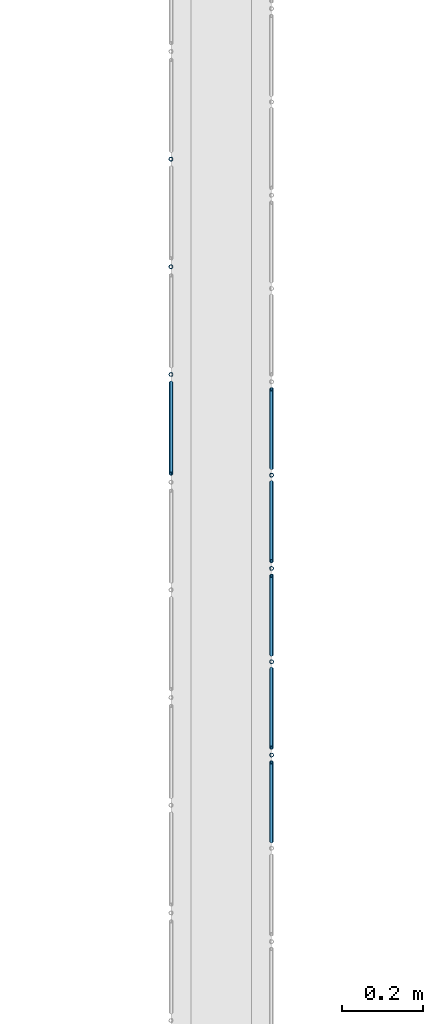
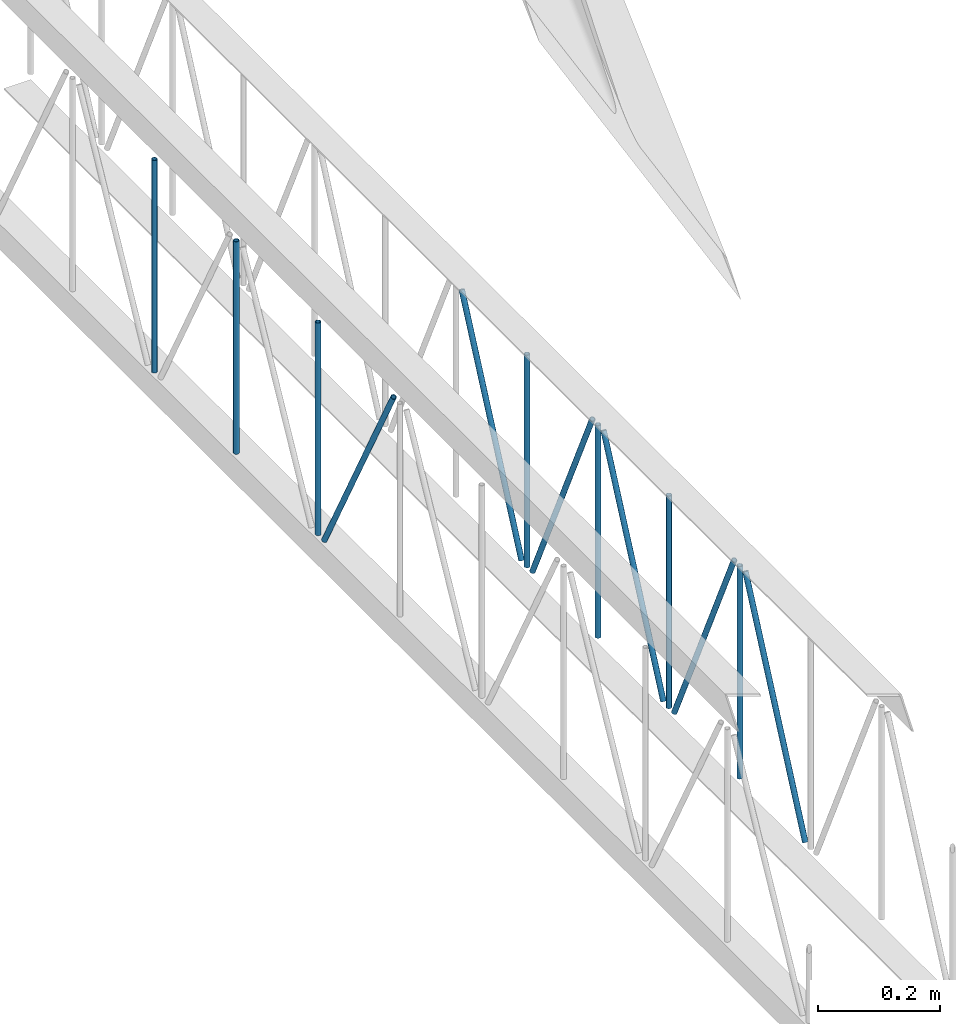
# One storey, part 69 of 153: 13 members, 2 elements without a shape of their own.
"""IFC4 building model written with IfcOpenShell, lengths in metres."""

from ifc_helpers import new_model, entity, si_unit, converted_unit, derived_unit, direction, frame, origin, place, context, subcontext, project, spatial, arc, indexed_curve, outline, extrude, source, transform, mapped, material, type_object, type_shapes, element, aggregate, save


model = new_model("IFC4")

# Units and contexts
model_context = context("Model", 3, precision=1e-05, world=origin(), true_north=direction((6.123031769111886e-17, 1.0)))
body_context = subcontext(model_context, "Body", "Model", "MODEL_VIEW")
ifc_project = project(units=[si_unit("LENGTHUNIT", "METRE"), si_unit("AREAUNIT", "SQUARE_METRE"), si_unit("VOLUMEUNIT", "CUBIC_METRE"), converted_unit("PLANEANGLEUNIT", "DEGREE", entity("IfcRatioMeasure", 0.017453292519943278), si_unit("PLANEANGLEUNIT", "RADIAN"), dimensions=[0, 0, 0, 0, 0, 0, 0]), si_unit("MASSUNIT", "GRAM", prefix="KILO"), derived_unit("MASSDENSITYUNIT", [(si_unit("MASSUNIT", "GRAM", prefix="KILO"), 1), (si_unit("LENGTHUNIT", "METRE"), -3)]), derived_unit("MOMENTOFINERTIAUNIT", [(si_unit("LENGTHUNIT", "METRE"), 4)]), si_unit("TIMEUNIT", "SECOND"), si_unit("FREQUENCYUNIT", "HERTZ"), si_unit("THERMODYNAMICTEMPERATUREUNIT", "DEGREE_CELSIUS"), derived_unit("THERMALTRANSMITTANCEUNIT", [(si_unit("MASSUNIT", "GRAM", prefix="KILO"), 1), (si_unit("THERMODYNAMICTEMPERATUREUNIT", "KELVIN"), -1), (si_unit("TIMEUNIT", "SECOND"), -3)]), derived_unit("VOLUMETRICFLOWRATEUNIT", [(si_unit("LENGTHUNIT", "METRE"), 3), (si_unit("TIMEUNIT", "SECOND"), -1)]), derived_unit("MASSFLOWRATEUNIT", [(si_unit("MASSUNIT", "GRAM", prefix="KILO"), 1), (si_unit("TIMEUNIT", "SECOND"), -1)]), derived_unit("ROTATIONALFREQUENCYUNIT", [(si_unit("TIMEUNIT", "SECOND"), -1)]), si_unit("ELECTRICCURRENTUNIT", "AMPERE"), si_unit("ELECTRICVOLTAGEUNIT", "VOLT"), si_unit("POWERUNIT", "WATT"), si_unit("FORCEUNIT", "NEWTON", prefix="KILO"), si_unit("ILLUMINANCEUNIT", "LUX"), si_unit("LUMINOUSFLUXUNIT", "LUMEN"), si_unit("LUMINOUSINTENSITYUNIT", "CANDELA"), derived_unit("USERDEFINED", [(si_unit("MASSUNIT", "GRAM", prefix="KILO"), -1), (si_unit("LENGTHUNIT", "METRE"), -2), (si_unit("TIMEUNIT", "SECOND"), 3), (si_unit("LUMINOUSFLUXUNIT", "LUMEN"), 1)]), derived_unit("SOUNDPOWERUNIT", [(si_unit("MASSUNIT", "GRAM", prefix="KILO"), 1), (si_unit("LENGTHUNIT", "METRE"), 2), (si_unit("TIMEUNIT", "SECOND"), -3)]), derived_unit("SOUNDPRESSUREUNIT", [(si_unit("MASSUNIT", "GRAM", prefix="KILO"), 1), (si_unit("LENGTHUNIT", "METRE"), -1), (si_unit("TIMEUNIT", "SECOND"), -2)]), derived_unit("LINEARVELOCITYUNIT", [(si_unit("LENGTHUNIT", "METRE"), 1), (si_unit("TIMEUNIT", "SECOND"), -1)]), si_unit("PRESSUREUNIT", "PASCAL"), derived_unit("USERDEFINED", [(si_unit("LENGTHUNIT", "METRE"), -2), (si_unit("MASSUNIT", "GRAM", prefix="KILO"), 1), (si_unit("TIMEUNIT", "SECOND"), -2)]), derived_unit("LINEARFORCEUNIT", [(si_unit("MASSUNIT", "GRAM", prefix="KILO"), 1), (si_unit("LENGTHUNIT", "METRE"), 1), (si_unit("TIMEUNIT", "SECOND"), -2), (si_unit("LENGTHUNIT", "METRE"), -1)]), derived_unit("PLANARFORCEUNIT", [(si_unit("MASSUNIT", "GRAM", prefix="KILO"), 1), (si_unit("LENGTHUNIT", "METRE"), 1), (si_unit("TIMEUNIT", "SECOND"), -2), (si_unit("LENGTHUNIT", "METRE"), -2)])], contexts=[model_context])

# Site, building, storey
site_placement = place(None, origin())
site = spatial("IfcSite", under=ifc_project, at=site_placement, Name="Superficie", CompositionType="ELEMENT")
building_placement = place(site_placement, origin())
building = spatial("IfcBuilding", under=site, at=building_placement, CompositionType="ELEMENT")
storey_placement = place(building_placement, frame((0.0, 0.0, 3.5999999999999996)))
storey = spatial("IfcBuildingStorey", under=building, at=storey_placement, Name="Nivel 1", CompositionType="ELEMENT", Elevation=3.5999999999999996)

# Assembly, members
assembly_1_placement = place(storey_placement, origin())
assembly_1 = element("IfcElementAssembly", 1, at=assembly_1_placement, inside=storey, Name="Viga de celosia 13:Viga de celosia 13", ObjectType="Viga de celosia 13:Viga de celosia 13", AssemblyPlace="NOTDEFINED", PredefinedType="TRUSS")
ifc_material = material(Name="Metal - Calibre delgado", Category="Metal")
member_type_1 = type_object("IfcMemberType", Name="HSS-Tubo estructural redondo:HSS 0.01", PredefinedType="BRACE", material=ifc_material)
shared_shape_1 = source(origin(), body_context, "Body", "SweptSolid", [
    extrude(outline(indexed_curve([(-0.005000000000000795, 7.502054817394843e-18), (-9.800269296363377e-18, -0.005000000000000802), (0.005000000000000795, -7.502054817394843e-18), (8.07772287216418e-18, 0.005000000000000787)], segments=[arc(1, 2, 3), arc(3, 4, 1)], self_intersect=False), holes=[indexed_curve([(0.003999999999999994, 7.222511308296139e-17), (6.910645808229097e-17, -0.004000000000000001), (-0.003999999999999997, -1.8650054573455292e-17), (-2.9156497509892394e-17, 0.003999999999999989)], segments=[arc(1, 2, 3), arc(3, 4, 1)], self_intersect=False)]), frame((-0.21200000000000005, 0.0, 0.0), z_axis=(1.0, 0.0, 0.0), x_axis=(0.0, 1.0, 0.0)), (0.0, 0.0, 1.0), 0.4240000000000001),
])
type_shapes(member_type_1, [shared_shape_1])
member_1_placement = place(assembly_1_placement, frame((5.936799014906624, -11.071002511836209, 0.24999999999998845), z_axis=(0.0, 1.0, 0.0), x_axis=(0.0, 0.0, 1.0)))
member_1 = element("IfcMember", 2, at=member_1_placement, type_object=member_type_1, material=ifc_material, Name="HSS-Tubo estructural redondo:HSS 0.01", ObjectType="HSS-Tubo estructural redondo:HSS 0.01", PredefinedType="BRACE", context=body_context, shape_type="MappedRepresentation", body=[
    mapped(shared_shape_1, transform((0.0, 0.0, 0.0), scale=1.0)),
])
member_2_placement = place(assembly_1_placement, frame((5.936799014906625, -10.8035025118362, 0.25), z_axis=(0.0, 1.0, 0.0), x_axis=(0.0, 0.0, 1.0)))
member_2 = element("IfcMember", 3, at=member_2_placement, type_object=member_type_1, material=ifc_material, Name="HSS-Tubo estructural redondo:HSS 0.01", ObjectType="HSS-Tubo estructural redondo:HSS 0.01", PredefinedType="BRACE", context=body_context, shape_type="MappedRepresentation", body=[
    mapped(shared_shape_1, transform((0.0, 0.0, 0.0), scale=1.0)),
])
member_3_placement = place(assembly_1_placement, frame((5.936799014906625, -10.536002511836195, 0.25), z_axis=(0.0, 1.0, 0.0), x_axis=(0.0, 0.0, 1.0)))
member_3 = element("IfcMember", 4, at=member_3_placement, type_object=member_type_1, material=ifc_material, Name="HSS-Tubo estructural redondo:HSS 0.01", ObjectType="HSS-Tubo estructural redondo:HSS 0.01", PredefinedType="BRACE", context=body_context, shape_type="MappedRepresentation", body=[
    mapped(shared_shape_1, transform((0.0, 0.0, 0.0), scale=1.0)),
])

assembly_2_placement = place(storey_placement, origin())
assembly_2 = element("IfcElementAssembly", 5, at=assembly_2_placement, inside=storey, Name="Viga de celosia 13:Viga de celosia 13", ObjectType="Viga de celosia 13:Viga de celosia 13", AssemblyPlace="NOTDEFINED", PredefinedType="TRUSS")
member_type_2 = type_object("IfcMemberType", Name="HSS-Tubo estructural redondo:HSS 0.01", PredefinedType="BRACE", material=ifc_material)
shared_shape_2 = source(origin(), body_context, "Body", "SweptSolid", [
    extrude(outline(indexed_curve([(-0.005000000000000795, 2.0824731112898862e-17), (-2.3122945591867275e-17, -0.005000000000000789), (0.005000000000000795, -2.08247311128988e-17), (2.14003991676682e-17, 0.005000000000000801)], segments=[arc(1, 2, 3), arc(3, 4, 1)], self_intersect=False), holes=[indexed_curve([(0.003999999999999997, -1.3094283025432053e-17), (-1.531427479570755e-18, -0.003999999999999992), (-0.004, 4.0098531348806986e-17), (4.1481388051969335e-17, 0.0039999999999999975)], segments=[arc(1, 2, 3), arc(3, 4, 1)], self_intersect=False)]), frame((-0.21200000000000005, 0.0, 0.0), z_axis=(1.0, 0.0, 0.0), x_axis=(0.0, -1.0, 0.0)), (0.0, 0.0, 1.0), 0.4240000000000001),
])
type_shapes(member_type_2, [shared_shape_2])
member_4_placement = place(assembly_2_placement, frame((6.18679901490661, -12.016359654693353, 0.25), z_axis=(0.0, 1.0, 0.0), x_axis=(0.0, 0.0, 1.0)))
member_4 = element("IfcMember", 6, at=member_4_placement, type_object=member_type_2, material=ifc_material, Name="HSS-Tubo estructural redondo:HSS 0.01", ObjectType="HSS-Tubo estructural redondo:HSS 0.01", PredefinedType="BRACE", context=body_context, shape_type="MappedRepresentation", body=[
    mapped(shared_shape_2, transform((0.0, 0.0, 0.0), scale=1.0)),
])
member_5_placement = place(assembly_2_placement, frame((6.186799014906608, -11.784573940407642, 0.25), z_axis=(0.0, 1.0, 0.0), x_axis=(0.0, 0.0, 1.0)))
member_5 = element("IfcMember", 7, at=member_5_placement, type_object=member_type_2, material=ifc_material, Name="HSS-Tubo estructural redondo:HSS 0.01", ObjectType="HSS-Tubo estructural redondo:HSS 0.01", PredefinedType="BRACE", context=body_context, shape_type="MappedRepresentation", body=[
    mapped(shared_shape_2, transform((0.0, 0.0, 0.0), scale=1.0)),
])
member_6_placement = place(assembly_2_placement, frame((6.186799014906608, -11.552788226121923, 0.25), z_axis=(0.0, 1.0, 0.0), x_axis=(0.0, 0.0, 1.0)))
member_6 = element("IfcMember", 8, at=member_6_placement, type_object=member_type_2, material=ifc_material, Name="HSS-Tubo estructural redondo:HSS 0.01", ObjectType="HSS-Tubo estructural redondo:HSS 0.01", PredefinedType="BRACE", context=body_context, shape_type="MappedRepresentation", body=[
    mapped(shared_shape_2, transform((0.0, 0.0, 0.0), scale=1.0)),
])
member_7_placement = place(assembly_2_placement, frame((6.186799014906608, -11.321002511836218, 0.24999999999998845), z_axis=(0.0, 1.0, 0.0), x_axis=(0.0, 0.0, 1.0)))
member_7 = element("IfcMember", 9, at=member_7_placement, type_object=member_type_2, material=ifc_material, Name="HSS-Tubo estructural redondo:HSS 0.01", ObjectType="HSS-Tubo estructural redondo:HSS 0.01", PredefinedType="BRACE", context=body_context, shape_type="MappedRepresentation", body=[
    mapped(shared_shape_2, transform((0.0, 0.0, 0.0), scale=1.0)),
])

# Member
member_type_3 = type_object("IfcMemberType", Name="HSS-Tubo estructural redondo:HSS 0.01", PredefinedType="BRACE", material=ifc_material)
shared_shape_3 = source(origin(), body_context, "Body", "SweptSolid", [
    extrude(outline(indexed_curve([(-0.005000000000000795, 7.502054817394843e-18), (-9.800269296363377e-18, -0.005000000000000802), (0.005000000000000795, -7.502054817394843e-18), (8.07772287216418e-18, 0.005000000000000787)], segments=[arc(1, 2, 3), arc(3, 4, 1)], self_intersect=False), holes=[indexed_curve([(0.003999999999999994, 7.222511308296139e-17), (6.910645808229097e-17, -0.004000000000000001), (-0.003999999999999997, -1.8650054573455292e-17), (-2.9156497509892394e-17, 0.003999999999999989)], segments=[arc(1, 2, 3), arc(3, 4, 1)], self_intersect=False)]), frame((-0.23950000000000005, 0.0, 0.0), z_axis=(1.0, 0.0, 0.0), x_axis=(0.0, 1.0, 0.0)), (0.0, 0.0, 1.0), 0.4790000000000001),
])
type_shapes(member_type_3, [shared_shape_3])
member_8_placement = place(assembly_1_placement, frame((5.936799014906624, -11.20475251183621, 0.25), z_axis=(0.0, -0.8817419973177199, -0.47173196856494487), x_axis=(0.0, 0.47173196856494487, -0.8817419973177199)))
member_8 = element("IfcMember", 10, at=member_8_placement, type_object=member_type_3, material=ifc_material, Name="HSS-Tubo estructural redondo:HSS 0.01", ObjectType="HSS-Tubo estructural redondo:HSS 0.01", PredefinedType="BRACE", context=body_context, shape_type="MappedRepresentation", body=[
    mapped(shared_shape_3, transform((0.0, 0.0, 0.0), scale=1.0)),
])

aggregate(assembly_1, [member_1, member_2, member_3, member_8])

member_type_4 = type_object("IfcMemberType", Name="HSS-Tubo estructural redondo:HSS 0.01", PredefinedType="BRACE", material=ifc_material)
shared_shape_4 = source(origin(), body_context, "Body", "SweptSolid", [
    extrude(outline(indexed_curve([(-0.005000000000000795, 2.0824731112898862e-17), (-2.3122945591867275e-17, -0.005000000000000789), (0.005000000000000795, -2.08247311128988e-17), (2.14003991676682e-17, 0.005000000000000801)], segments=[arc(1, 2, 3), arc(3, 4, 1)], self_intersect=False), holes=[indexed_curve([(0.003999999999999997, -1.3094283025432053e-17), (-1.531427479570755e-18, -0.003999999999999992), (-0.004, 4.0098531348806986e-17), (4.1481388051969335e-17, 0.0039999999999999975)], segments=[arc(1, 2, 3), arc(3, 4, 1)], self_intersect=False)]), frame((-0.2325, 0.0, 0.0), z_axis=(1.0, 0.0, 0.0), x_axis=(0.0, -1.0, 0.0)), (0.0, 0.0, 1.0), 0.465),
])
type_shapes(member_type_4, [shared_shape_4])
member_9_placement = place(assembly_2_placement, frame((6.18679901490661, -12.132252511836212, 0.25), z_axis=(0.0, 0.9072563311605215, -0.4205781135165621), x_axis=(0.0, 0.4205781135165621, 0.9072563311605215)))
member_9 = element("IfcMember", 11, at=member_9_placement, type_object=member_type_4, material=ifc_material, Name="HSS-Tubo estructural redondo:HSS 0.01", ObjectType="HSS-Tubo estructural redondo:HSS 0.01", PredefinedType="BRACE", context=body_context, shape_type="MappedRepresentation", body=[
    mapped(shared_shape_4, transform((0.0, 0.0, 0.0), scale=1.0)),
])

member_10_placement = place(assembly_2_placement, frame((6.18679901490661, -11.900466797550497, 0.25), z_axis=(0.0, -0.907256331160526, -0.4205781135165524), x_axis=(0.0, 0.4205781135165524, -0.907256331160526)))
member_10 = element("IfcMember", 12, at=member_10_placement, type_object=member_type_4, material=ifc_material, Name="HSS-Tubo estructural redondo:HSS 0.01", ObjectType="HSS-Tubo estructural redondo:HSS 0.01", PredefinedType="BRACE", context=body_context, shape_type="MappedRepresentation", body=[
    mapped(shared_shape_4, transform((0.0, 0.0, 0.0), scale=1.0)),
])

member_11_placement = place(assembly_2_placement, frame((6.186799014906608, -11.668681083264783, 0.25), z_axis=(0.0, 0.90725633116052, -0.4205781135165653), x_axis=(0.0, 0.4205781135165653, 0.90725633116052)))
member_11 = element("IfcMember", 13, at=member_11_placement, type_object=member_type_4, material=ifc_material, Name="HSS-Tubo estructural redondo:HSS 0.01", ObjectType="HSS-Tubo estructural redondo:HSS 0.01", PredefinedType="BRACE", context=body_context, shape_type="MappedRepresentation", body=[
    mapped(shared_shape_4, transform((0.0, 0.0, 0.0), scale=1.0)),
])

member_12_placement = place(assembly_2_placement, frame((6.186799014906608, -11.436895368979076, 0.2499999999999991), z_axis=(0.0, -0.9072563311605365, -0.4205781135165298), x_axis=(0.0, 0.4205781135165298, -0.9072563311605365)))
member_12 = element("IfcMember", 14, at=member_12_placement, type_object=member_type_4, material=ifc_material, Name="HSS-Tubo estructural redondo:HSS 0.01", ObjectType="HSS-Tubo estructural redondo:HSS 0.01", PredefinedType="BRACE", context=body_context, shape_type="MappedRepresentation", body=[
    mapped(shared_shape_4, transform((0.0, 0.0, 0.0), scale=1.0)),
])

member_13_placement = place(assembly_2_placement, frame((6.186799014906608, -11.205109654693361, 0.25), z_axis=(0.0, 0.907256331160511, -0.42057811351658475), x_axis=(0.0, 0.42057811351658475, 0.907256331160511)))
member_13 = element("IfcMember", 15, at=member_13_placement, type_object=member_type_4, material=ifc_material, Name="HSS-Tubo estructural redondo:HSS 0.01", ObjectType="HSS-Tubo estructural redondo:HSS 0.01", PredefinedType="BRACE", context=body_context, shape_type="MappedRepresentation", body=[
    mapped(shared_shape_4, transform((0.0, 0.0, 0.0), scale=1.0)),
])

aggregate(assembly_2, [member_4, member_5, member_6, member_7, member_9, member_10, member_11, member_12, member_13])

save(model, "model.ifc")
